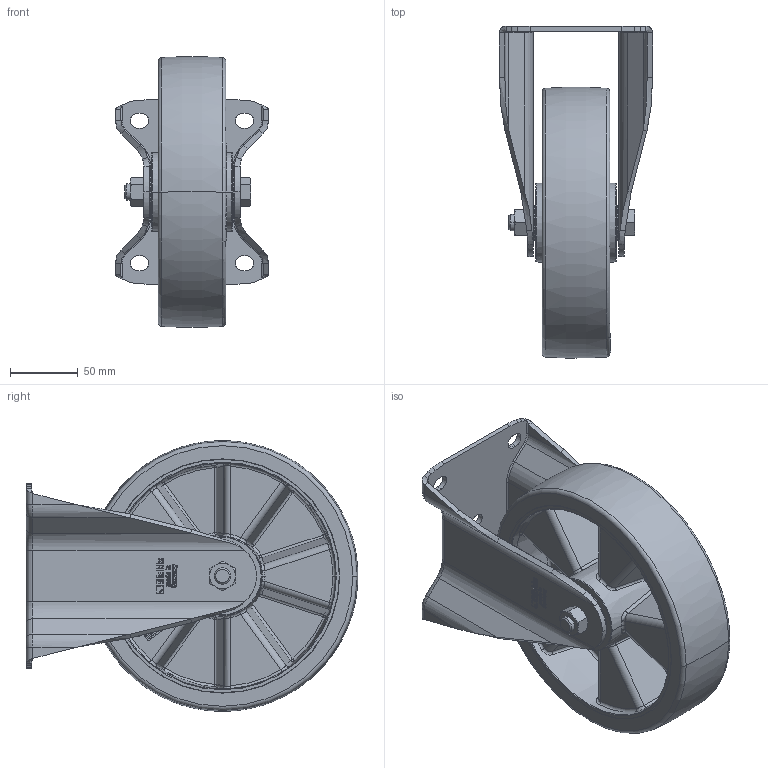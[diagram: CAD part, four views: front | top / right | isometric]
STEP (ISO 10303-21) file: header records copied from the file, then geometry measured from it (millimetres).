
FILE_DESCRIPTION (( 'STEP AP214' ), '1' );
FILE_NAME ('BH-ALTH_200K_266080-214.step', '2021-11-24T10:03:57', ( '' ), ( '' ), 'SwSTEP 2.0', 'SolidWorks 2018', '' );
FILE_SCHEMA (( 'AUTOMOTIVE_DESIGN' ));
Length unit declared in the file: millimetre
Products named in the file (5): ALTH_3D_G16_ALTH_200_20K_265736; GH-BH_150-250_GH-BH-200x60-03_20x60; GH-BH-200x60-03_20x60_G16_3D; BH-ALTH_200K_266080-214; ALTH_200_20K_G16_3D
Assembly tree (4 placements, depth 3):
  BH-ALTH_200K_266080-214
    GH-BH_150-250_GH-BH-200x60-03_20x60
      GH-BH-200x60-03_20x60_G16_3D
    ALTH_3D_G16_ALTH_200_20K_265736
      ALTH_200_20K_G16_3D
Bounding box: 113 x 244.91 x 199.62 mm (x, y, z)
Volume: 863979.2 mm3; surface area: 266586.2 mm2
Topology: 2 solids, 5 shells, 2218 faces, 5759 edges, 3708 vertices
Faces by surface type: plane 1003, bspline 847, torus 149, cylinder 132, cone 49, sphere 38
Entity records: 97108 total; most frequent: CARTESIAN_POINT 33170, ORIENTED_EDGE 11518, DIRECTION 7391, EDGE_CURVE 5759, VERTEX_POINT 3708, LINE 3165, VECTOR 3165, EDGE_LOOP 2395
